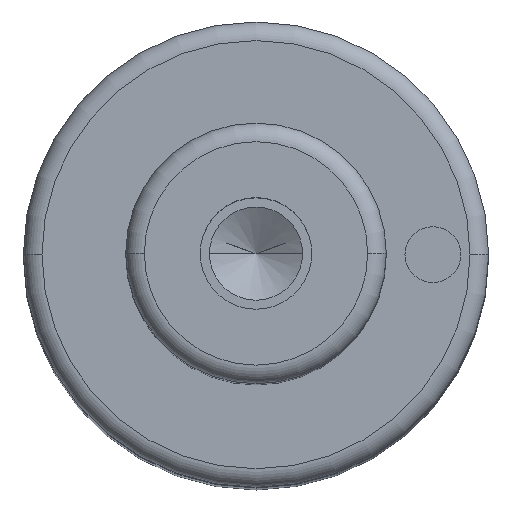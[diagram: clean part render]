
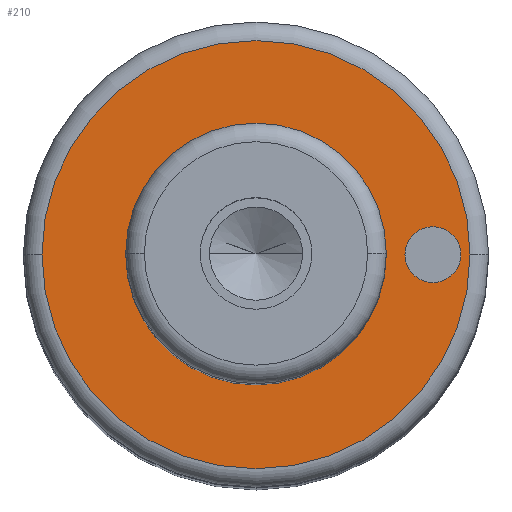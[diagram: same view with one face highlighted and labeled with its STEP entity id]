
A CAD part, top view. The second image highlights one B-rep face of the part: STEP entity #210.
In plain terms, the highlighted planar face has unit normal (0, 0, 1).
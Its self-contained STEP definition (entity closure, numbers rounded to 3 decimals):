
#99=PLANE('',#660);
#107=FACE_BOUND('',#285,.T.);
#108=FACE_BOUND('',#286,.T.);
#109=FACE_BOUND('',#287,.T.);
#210=ADVANCED_FACE('',(#107,#108,#109),#99,.T.);
#285=EDGE_LOOP('',(#395,#396));
#286=EDGE_LOOP('',(#397,#398));
#287=EDGE_LOOP('',(#399,#400));
#395=ORIENTED_EDGE('',*,*,#500,.F.);
#396=ORIENTED_EDGE('',*,*,#501,.F.);
#397=ORIENTED_EDGE('',*,*,#533,.F.);
#398=ORIENTED_EDGE('',*,*,#534,.F.);
#399=ORIENTED_EDGE('',*,*,#496,.T.);
#400=ORIENTED_EDGE('',*,*,#494,.T.);
#447=VERTEX_POINT('',#894);
#448=VERTEX_POINT('',#896);
#449=VERTEX_POINT('',#902);
#452=VERTEX_POINT('',#907);
#470=VERTEX_POINT('',#977);
#471=VERTEX_POINT('',#978);
#494=EDGE_CURVE('',#448,#447,#561,.T.);
#496=EDGE_CURVE('',#447,#448,#562,.T.);
#500=EDGE_CURVE('',#452,#449,#566,.T.);
#501=EDGE_CURVE('',#449,#452,#567,.T.);
#533=EDGE_CURVE('',#470,#471,#587,.T.);
#534=EDGE_CURVE('',#471,#470,#588,.T.);
#561=CIRCLE('',#612,7.);
#562=CIRCLE('',#614,7.);
#566=CIRCLE('',#619,11.5);
#567=CIRCLE('',#621,11.5);
#587=CIRCLE('',#658,1.5);
#588=CIRCLE('',#659,1.5);
#612=AXIS2_PLACEMENT_3D('',#895,#711,#712);
#614=AXIS2_PLACEMENT_3D('',#899,#716,#717);
#619=AXIS2_PLACEMENT_3D('',#908,#726,#727);
#621=AXIS2_PLACEMENT_3D('',#910,#730,#731);
#658=AXIS2_PLACEMENT_3D('',#976,#816,#817);
#659=AXIS2_PLACEMENT_3D('',#979,#818,#819);
#660=AXIS2_PLACEMENT_3D('',#980,#820,#821);
#711=DIRECTION('',(0.,0.,-1.));
#712=DIRECTION('',(0.,1.,0.));
#716=DIRECTION('',(0.,0.,-1.));
#717=DIRECTION('',(0.,-1.,0.));
#726=DIRECTION('',(0.,0.,-1.));
#727=DIRECTION('',(0.,1.,0.));
#730=DIRECTION('',(0.,0.,-1.));
#731=DIRECTION('',(0.,-1.,0.));
#816=DIRECTION('',(0.,0.,1.));
#817=DIRECTION('',(0.,1.,0.));
#818=DIRECTION('',(0.,0.,1.));
#819=DIRECTION('',(0.,-1.,0.));
#820=DIRECTION('',(0.,0.,1.));
#821=DIRECTION('',(0.,-1.,0.));
#894=CARTESIAN_POINT('',(-7.,0.,82.));
#895=CARTESIAN_POINT('',(0.,0.,82.));
#896=CARTESIAN_POINT('',(7.,0.,82.));
#899=CARTESIAN_POINT('',(0.,0.,82.));
#902=CARTESIAN_POINT('',(-11.5,0.,82.));
#907=CARTESIAN_POINT('',(11.5,0.,82.));
#908=CARTESIAN_POINT('',(0.,0.,82.));
#910=CARTESIAN_POINT('',(0.,0.,82.));
#976=CARTESIAN_POINT('',(9.5,0.,82.));
#977=CARTESIAN_POINT('',(8.,0.,82.));
#978=CARTESIAN_POINT('',(11.,0.,82.));
#979=CARTESIAN_POINT('',(9.5,0.,82.));
#980=CARTESIAN_POINT('',(0.,0.,82.));
